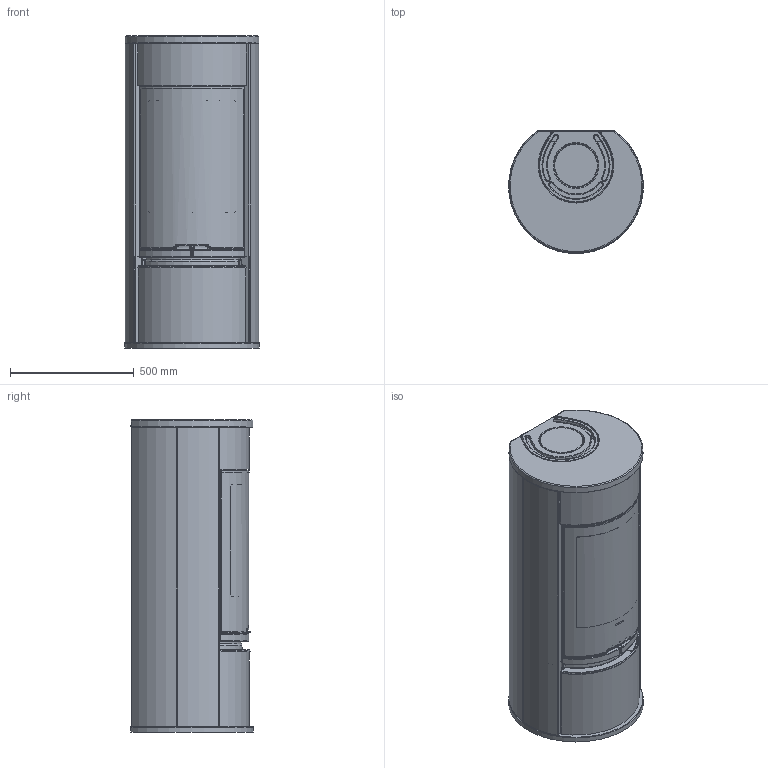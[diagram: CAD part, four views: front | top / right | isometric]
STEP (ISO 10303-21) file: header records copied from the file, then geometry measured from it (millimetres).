
FILE_DESCRIPTION(/* description */ ('Unknown'),/* implementation_level */ '2;1');
FILE_NAME(/* name */ 'C610AG interior model-0',/* time_stamp */ '2017-06-28T11:31:00+02:00',/* author */ ('Unknown'),/* organization */ ('NIBE AB/Contura'),/* preprocessor_version */ 'ST-DEVELOPER v16.7',/* originating_system */ 'DEX',/* authorisation */ $);
FILE_SCHEMA (('AUTOMOTIVE_DESIGN {1 0 10303 214 3 1 1}'));
Products named in the file (13): DSN1018751; DSN1018776; DSN1018413; DSN1018752; DSN1018427; DSN1018754; DSN1018414; DSN1018411; DSN1018429; DSN1018422; DSN1018737; DSN1018433; DSN1018739
Assembly tree (12 placements, depth 2):
  DSN1018751
    DSN1018776
    DSN1018413
    DSN1018752
    DSN1018427
    DSN1018754
    DSN1018414
    DSN1018411
    DSN1018429
    DSN1018422
    DSN1018737
    DSN1018433
    DSN1018739
Bounding box: 542.46 x 495.19 x 1260 mm (x, y, z)
Volume: 223825845.3 mm3; surface area: 10544329.9 mm2
Topology: 13 solids, 19 shells, 1312 faces, 3298 edges, 2113 vertices
Faces by surface type: plane 517, bspline 368, cylinder 256, torus 90, cone 60, sphere 21
Full cylindrical faces by diameter (mm): 170 x1, 172 x1, 205 x1, 210.655 x1
Entity records: 52945 total; most frequent: CARTESIAN_POINT 23386, ORIENTED_EDGE 6510, DIRECTION 4630, EDGE_CURVE 3255, VERTEX_POINT 2097, AXIS2_PLACEMENT_3D 1803, EDGE_LOOP 1436, FACE_BOUND 1436
